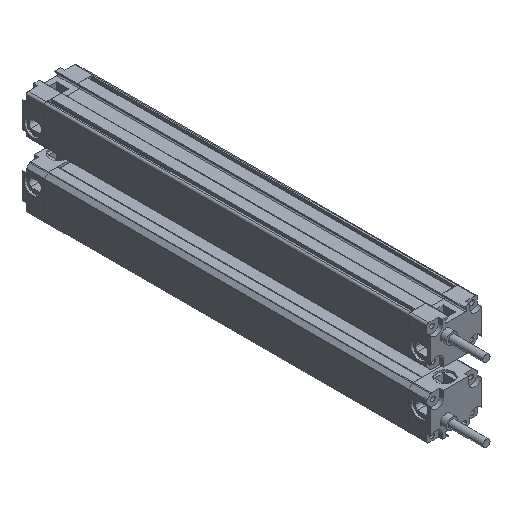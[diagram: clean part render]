
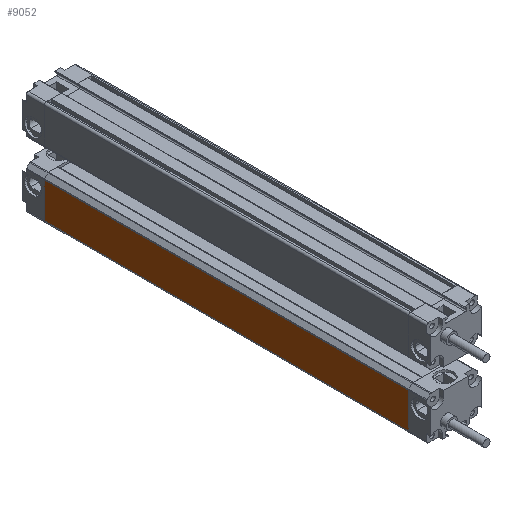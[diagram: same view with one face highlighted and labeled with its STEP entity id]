
A CAD part, isometric view. The second image highlights one B-rep face of the part: STEP entity #9052.
In plain terms, the highlighted planar face has unit normal (-1, 0, 0).
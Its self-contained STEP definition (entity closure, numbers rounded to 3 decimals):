
#149 = CARTESIAN_POINT ( 'NONE',  ( -12.5, -180., -9.2 ) ) ;
#226 = DIRECTION ( 'NONE',  ( 0., 0., 1. ) ) ;
#399 = LINE ( 'NONE', #149, #9146 ) ;
#593 = LINE ( 'NONE', #7839, #6564 ) ;
#1134 = EDGE_CURVE ( 'NONE', #10218, #3628, #399, .T. ) ;
#1171 = DIRECTION ( 'NONE',  ( 0., 0., 1. ) ) ;
#2003 = EDGE_LOOP ( 'NONE', ( #8170, #4384, #5553, #2960 ) ) ;
#2018 = CARTESIAN_POINT ( 'NONE',  ( -12.5, -180., -9.2 ) ) ;
#2267 = VERTEX_POINT ( 'NONE', #3343 ) ;
#2618 = EDGE_CURVE ( 'NONE', #8288, #2267, #10024, .T. ) ;
#2777 = CARTESIAN_POINT ( 'NONE',  ( -12.5, -180., -9.2 ) ) ;
#2960 = ORIENTED_EDGE ( 'NONE', *, *, #2618, .T. ) ;
#3343 = CARTESIAN_POINT ( 'NONE',  ( -12.5, 0., 8.293 ) ) ;
#3509 = DIRECTION ( 'NONE',  ( 0., 0., 1. ) ) ;
#3628 = VERTEX_POINT ( 'NONE', #10872 ) ;
#4073 = VECTOR ( 'NONE', #10621, 1000. ) ;
#4384 = ORIENTED_EDGE ( 'NONE', *, *, #1134, .F. ) ;
#4994 = EDGE_CURVE ( 'NONE', #3628, #2267, #593, .T. ) ;
#5420 = VECTOR ( 'NONE', #226, 1000. ) ;
#5553 = ORIENTED_EDGE ( 'NONE', *, *, #10668, .T. ) ;
#5584 = AXIS2_PLACEMENT_3D ( 'NONE', #7066, #10528, #1171 ) ;
#5726 = FACE_OUTER_BOUND ( 'NONE', #2003, .T. ) ;
#6380 = LINE ( 'NONE', #2777, #5420 ) ;
#6564 = VECTOR ( 'NONE', #3509, 1000. ) ;
#6961 = DIRECTION ( 'NONE',  ( 0., 1., 0. ) ) ;
#7066 = CARTESIAN_POINT ( 'NONE',  ( -12.5, -180., -9.2 ) ) ;
#7839 = CARTESIAN_POINT ( 'NONE',  ( -12.5, 0., -9.2 ) ) ;
#7913 = PLANE ( 'NONE',  #5584 ) ;
#8170 = ORIENTED_EDGE ( 'NONE', *, *, #4994, .F. ) ;
#8288 = VERTEX_POINT ( 'NONE', #8559 ) ;
#8559 = CARTESIAN_POINT ( 'NONE',  ( -12.5, -180., 8.293 ) ) ;
#8971 = CARTESIAN_POINT ( 'NONE',  ( -12.5, -180., 8.293 ) ) ;
#9052 = ADVANCED_FACE ( 'NONE', ( #5726 ), #7913, .T. ) ;
#9146 = VECTOR ( 'NONE', #6961, 1000. ) ;
#10024 = LINE ( 'NONE', #8971, #4073 ) ;
#10218 = VERTEX_POINT ( 'NONE', #2018 ) ;
#10528 = DIRECTION ( 'NONE',  ( -1., 0., 0. ) ) ;
#10621 = DIRECTION ( 'NONE',  ( 0., 1., 0. ) ) ;
#10668 = EDGE_CURVE ( 'NONE', #10218, #8288, #6380, .T. ) ;
#10872 = CARTESIAN_POINT ( 'NONE',  ( -12.5, 0., -9.2 ) ) ;
